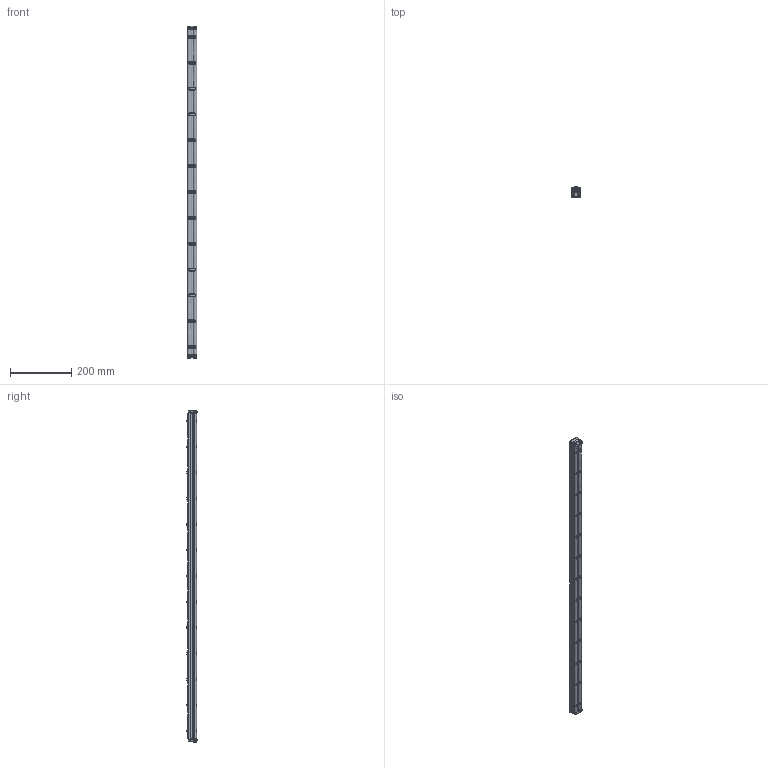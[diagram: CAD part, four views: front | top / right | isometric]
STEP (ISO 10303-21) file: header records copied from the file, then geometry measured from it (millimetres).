
FILE_DESCRIPTION((''),'2;1');
FILE_NAME('206523-42_ASM','2023-02-27T',('jenni.wallner'),(''),'PRO/ENGINEER BY PARAMETRIC TECHNOLOGY CORPORATION, 2012420','PRO/ENGINEER BY PARAMETRIC TECHNOLOGY CORPORATION, 2012420','');
FILE_SCHEMA(('CONFIG_CONTROL_DESIGN'));
Length unit declared in the file: inch
Products named in the file (7): 205977_205978_205979_205978; 240826; 2410WW_241042; 9506XXM_950616M; 2436WW_243642; ASM0001_ASM; 206523-42_ASM
Assembly tree (22 placements, depth 3):
  206523-42_ASM
    ASM0001_ASM
      205977_205978_205979_205978  x2
      240826  x13
      2410WW_241042
      9506XXM_950616M  x4
      2436WW_243642
Bounding box: 30.89 x 33.01 x 1087.35 mm (x, y, z)
Volume: 519631.6 mm3; surface area: 308754.9 mm2
Topology: 21 solids, 21 shells, 807 faces, 2290 edges, 1507 vertices
Faces by surface type: cylinder 367, plane 264, cone 124, torus 52
Entity records: 19111 total; most frequent: CARTESIAN_POINT 4713, ORIENTED_EDGE 3146, DIRECTION 3022, EDGE_CURVE 1573, AXIS2_PLACEMENT_3D 1145, VERTEX_POINT 1049, VECTOR 732, LINE 732
